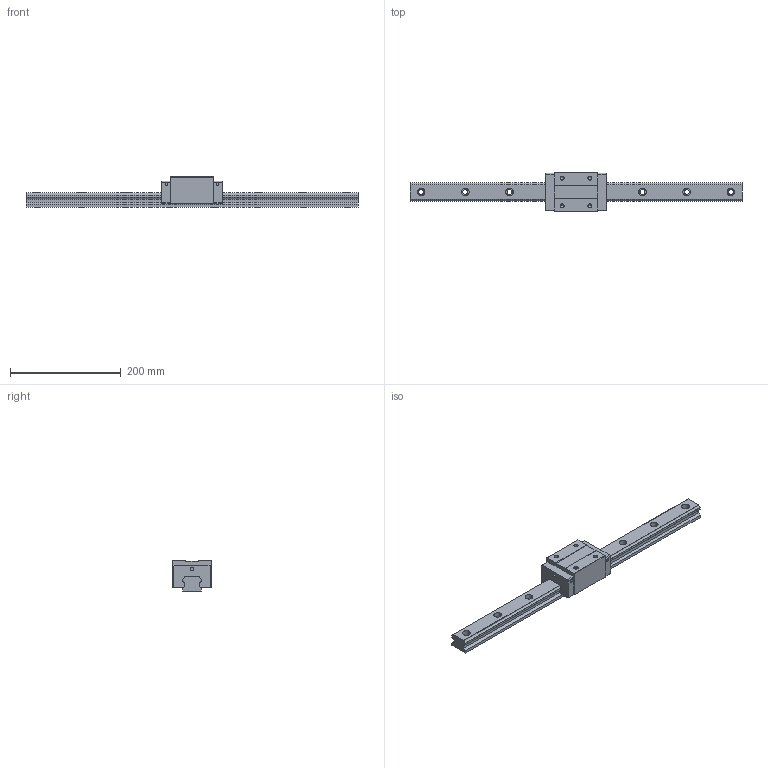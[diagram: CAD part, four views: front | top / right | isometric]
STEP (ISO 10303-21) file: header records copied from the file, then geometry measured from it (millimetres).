
FILE_DESCRIPTION (( 'STEP AP203' ), '1' );
FILE_NAME ('TRH35VN-XN.STEP', '2024-05-17T07:15:54', ( '' ), ( '' ), 'SwSTEP 2.0', 'SolidWorks 2022', '' );
FILE_SCHEMA (( 'CONFIG_CONTROL_DESIGN' ));
Length unit declared in the file: millimetre
Products named in the file (1): TRH35VN-XN
Bounding box: 600 x 70 x 55 mm (x, y, z)
Volume: 728575.4 mm3; surface area: 119050.2 mm2
Topology: 2 solids, 2 shells, 186 faces, 488 edges, 316 vertices
Faces by surface type: cylinder 88, plane 82, cone 16
Entity records: 5819 total; most frequent: DIRECTION 1038, CARTESIAN_POINT 983, ORIENTED_EDGE 960, EDGE_CURVE 480, AXIS2_PLACEMENT_3D 371, VERTEX_POINT 316, LINE 296, VECTOR 296
